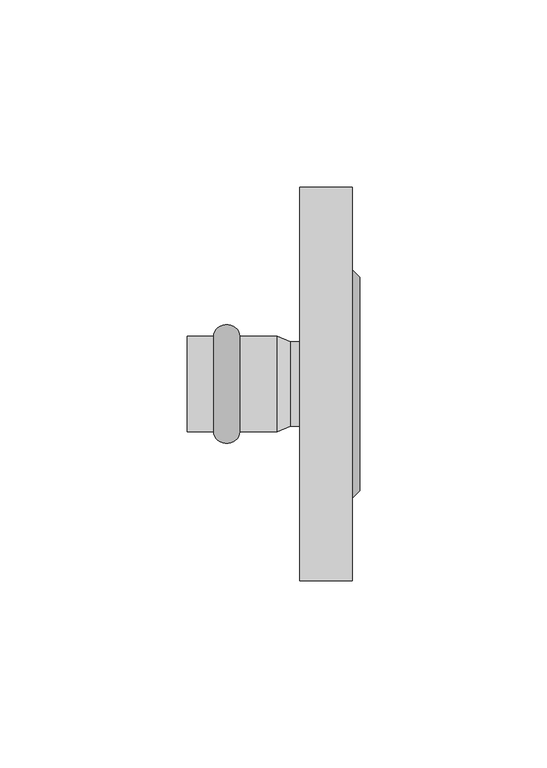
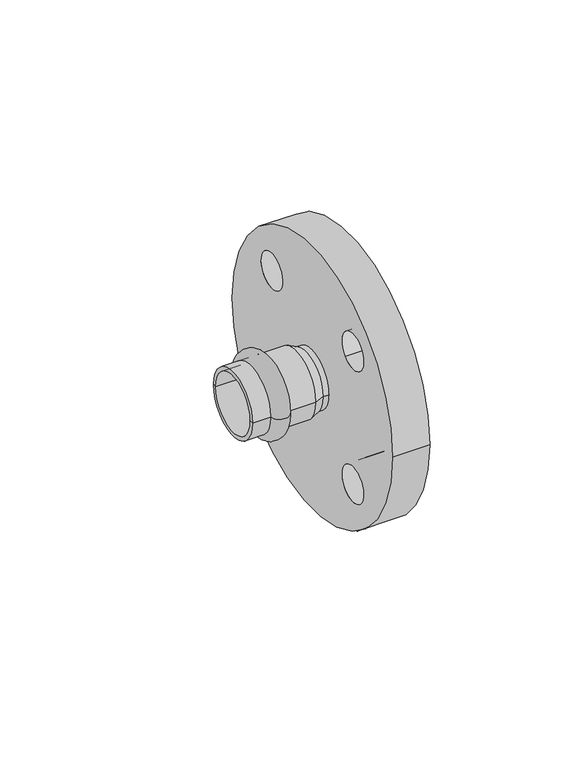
"""IFC4 building model written with IfcOpenShell, lengths in millimetres: pipe fitting geometry, РЕХАУ_Пресс Фланец : 22 x DN20."""

from ifc_helpers import new_model, si_unit, point, frame, frame_2d, origin, origin_2d, place, context, project, spatial, polyline, circle_curve, ellipse_curve, trimmed, segment, composite_curve, outline, extrude, source, transform, mapped, element, save
from ifc_brep_helpers import plane_surface, cylinder_surface, revolved_surface, advanced_brep


def pipe_fitting_acd5b14f(model_context):
    return source(origin(), model_context, "Body", "SolidModel", [
        advanced_brep(
        [(-17.0, 12.75, 0.0), (-17.0, -12.75, 0.0), (-10.0, -12.75, 0.0), (-10.0, 12.75, 0.0)],
        [
            (0, 1, circle_curve(frame((-17.0, 0.0, 0.0), z_axis=(-1.0, 0.0, 0.0), x_axis=(0.0, -1.0, 0.0)), 12.75)),
            (1, 2),
            (2, 3, circle_curve(frame((-10.0, 0.0, 0.0), z_axis=(1.0, 0.0, 0.0), x_axis=(0.0, -1.0, 0.0)), 12.75)),
            (3, 0),
            (1, 0, circle_curve(frame((-17.0, 0.0, 0.0), z_axis=(-1.0, 0.0, 0.0), x_axis=(0.0, -1.0, 0.0)), 12.75)),
            (3, 2, circle_curve(frame((-10.0, 0.0, 0.0), z_axis=(1.0, 0.0, 0.0), x_axis=(0.0, -1.0, 0.0)), 12.75)),
            (2, 1, ellipse_curve(frame((-13.5, -12.75, 0.0), z_axis=(0.0, 0.0, -1.0), x_axis=(-1.0, 0.0, 0.0)), 3.5, 3.1)),
            (0, 3, ellipse_curve(frame((-13.5, 12.75, 0.0), z_axis=(0.0, 0.0, -1.0), x_axis=(-1.0, 0.0, 0.0)), 3.5, 3.1)),
        ],
        [
            revolved_surface(polyline([(-10.0, -12.75, 0.0), (-17.0, -12.75, 0.0)]), (3.0, 0.0, 0.0), (1.0, 0.0, 0.0)),
            revolved_surface(trimmed(ellipse_curve(frame((-13.5, -12.75, 0.0), z_axis=(0.0, 0.0, 1.0), x_axis=(-1.0, 0.0, 0.0)), 3.5, 3.1), [point((-17.0, -12.75, 0.0))], [point((-10.0, -12.75, 0.0))], True, "CARTESIAN"), (3.0, 0.0, 0.0), (1.0, 0.0, 0.0)),
        ],
        [
            (0, [[1, 2, 3, 4]]),
            (0, [[5, -4, 6, -2]]),
            (1, [[-3, 7, -1, 8]]),
            (1, [[-6, -8, -5, -7]]),
        ],
    ),
        advanced_brep(
        [(3.5337785, 11.25, 0.0), (3.5337785, -11.25, 0.0), (0.0, -12.75, 0.0), (0.0, 12.75, 0.0), (-24.0, 11.25, 0.0), (-24.0, -11.25, 0.0), (-24.0, 12.75, 0.0), (-24.0, -12.75, 0.0)],
        [
            (0, 1, circle_curve(frame((3.5337785, 0.0, 0.0), z_axis=(-1.0, 0.0, 0.0), x_axis=(0.0, -1.0, 0.0)), 11.25)),
            (1, 2),
            (2, 3, circle_curve(frame((0.0, 0.0, 0.0), z_axis=(1.0, 0.0, 0.0), x_axis=(0.0, -1.0, 0.0)), 12.75)),
            (3, 0),
            (1, 0, circle_curve(frame((3.5337785, 0.0, 0.0), z_axis=(-1.0, 0.0, 0.0), x_axis=(0.0, -1.0, 0.0)), 11.25)),
            (3, 2, circle_curve(frame((0.0, 0.0, 0.0), z_axis=(1.0, 0.0, 0.0), x_axis=(0.0, -1.0, 0.0)), 12.75)),
            (4, 5, circle_curve(frame((-24.0, 0.0, 0.0), z_axis=(-1.0, 0.0, 0.0), x_axis=(0.0, -1.0, 0.0)), 11.25)),
            (5, 1),
            (0, 4),
            (5, 4, circle_curve(frame((-24.0, 0.0, 0.0), z_axis=(-1.0, 0.0, 0.0), x_axis=(0.0, -1.0, 0.0)), 11.25)),
            (6, 7, circle_curve(frame((-24.0, 0.0, 0.0), z_axis=(-1.0, 0.0, 0.0), x_axis=(0.0, -1.0, 0.0)), 12.75)),
            (7, 5),
            (4, 6),
            (7, 6, circle_curve(frame((-24.0, 0.0, 0.0), z_axis=(-1.0, 0.0, 0.0), x_axis=(0.0, -1.0, 0.0)), 12.75)),
            (2, 7),
            (6, 3),
        ],
        [
            revolved_surface(polyline([(0.0, -12.75, 0.0), (3.5337785, -11.25, 0.0)]), (3.0, 0.0, 0.0), (1.0, 0.0, 0.0)),
            revolved_surface(polyline([(3.5337785, -11.25, 0.0), (-24.0, -11.25, 0.0)]), (3.0, 0.0, 0.0), (1.0, 0.0, 0.0)),
            plane_surface(frame((-24.0, 0.0, 0.0), z_axis=(-1.0, 0.0, 0.0), x_axis=(0.0, -1.0, 0.0))),
            cylinder_surface(frame((3.0, 0.0, 0.0), z_axis=(1.0, 0.0, 0.0), x_axis=(0.0, -1.0, 0.0)), 12.75),
        ],
        [
            (0, [[1, 2, 3, 4]]),
            (0, [[5, -4, 6, -2]]),
            (1, [[7, 8, -1, 9]]),
            (1, [[10, -9, -5, -8]]),
            (2, [[11, 12, -7, 13]]),
            (2, [[14, -13, -10, -12]]),
            (3, [[-3, 15, -11, 16]]),
            (3, [[-6, -16, -14, -15]]),
        ],
    ),
        advanced_brep(
        [(22.0, -28.5, 0.0), (22.0, 28.5, 0.0), (20.0, -30.5, 0.0), (20.0, 30.5, 0.0)],
        [
            (0, 1, circle_curve(frame((22.0, 0.0, 0.0), z_axis=(1.0, 0.0, 0.0), x_axis=(0.0, -1.0, 0.0)), 28.5)),
            (1, 0, circle_curve(frame((22.0, 0.0, 0.0), z_axis=(1.0, 0.0, 0.0), x_axis=(0.0, 1.0, 0.0)), 28.5)),
            (2, 3, circle_curve(frame((20.0, 0.0, 0.0), z_axis=(-1.0, 0.0, 0.0), x_axis=(0.0, 1.0, 0.0)), 30.5)),
            (3, 2, circle_curve(frame((20.0, 0.0, 0.0), z_axis=(-1.0, 0.0, 0.0), x_axis=(0.0, -1.0, 0.0)), 30.5)),
            (3, 1),
            (0, 2),
        ],
        [
            plane_surface(frame((22.0, 0.0, 0.0), z_axis=(1.0, 0.0, 0.0), x_axis=(0.0, 0.0, -1.0))),
            plane_surface(frame((20.0, 0.0, 0.0), z_axis=(-1.0, 0.0, 0.0), x_axis=(0.0, 0.0, -1.0))),
            revolved_surface(polyline([(22.0, -28.5, 0.0), (20.0, -30.5, 0.0)]), (50.5, 0.0, 0.0), (-1.0, 0.0, 0.0)),
            revolved_surface(polyline([(22.0, 28.5, 0.0), (20.0, 30.5, 0.0)]), (50.5, 0.0, 0.0), (-1.0, 0.0, 0.0)),
        ],
        [
            (0, [[1, 2]]),
            (1, [[3, 4]]),
            (2, [[-4, 5, -1, 6]]),
            (3, [[-3, -6, -2, -5]]),
        ],
    ),
        extrude(outline(composite_curve([segment(trimmed(circle_curve(origin_2d(), 52.5), [point((52.5, 0.0))], [point((-52.5, 0.0))], False, "CARTESIAN"), True, "CONTINUOUS"), segment(trimmed(circle_curve(origin_2d(), 52.5), [point((-52.5, 0.0))], [point((52.5, 0.0))], False, "CARTESIAN"), True, "CONTINUOUS")], self_intersect=False), holes=[composite_curve([segment(trimmed(circle_curve(frame_2d((26.5165043, 26.5165043)), 7.0), [point((21.5667568, 21.5667568))], [point((31.4662518, 31.4662518))], True, "CARTESIAN"), True, "CONTINUOUS"), segment(trimmed(circle_curve(frame_2d((26.5165043, 26.5165043)), 7.0), [point((31.4662518, 31.4662518))], [point((21.5667568, 21.5667568))], True, "CARTESIAN"), True, "CONTINUOUS")], self_intersect=False), composite_curve([segment(trimmed(circle_curve(frame_2d((26.5165043, -26.5165043)), 7.0), [point((21.5667568, -21.5667568))], [point((31.4662518, -31.4662518))], True, "CARTESIAN"), True, "CONTINUOUS"), segment(trimmed(circle_curve(frame_2d((26.5165043, -26.5165043)), 7.0), [point((31.4662518, -31.4662518))], [point((21.5667568, -21.5667568))], True, "CARTESIAN"), True, "CONTINUOUS")], self_intersect=False), composite_curve([segment(trimmed(circle_curve(frame_2d((-26.5165043, -26.5165043)), 7.0), [point((-21.5667568, -21.5667568))], [point((-31.4662518, -31.4662518))], True, "CARTESIAN"), True, "CONTINUOUS"), segment(trimmed(circle_curve(frame_2d((-26.5165043, -26.5165043)), 7.0), [point((-31.4662518, -31.4662518))], [point((-21.5667568, -21.5667568))], True, "CARTESIAN"), True, "CONTINUOUS")], self_intersect=False), composite_curve([segment(trimmed(circle_curve(frame_2d((-26.5165043, 26.5165043)), 7.0), [point((-21.5667568, 21.5667568))], [point((-31.4662518, 31.4662518))], True, "CARTESIAN"), True, "CONTINUOUS"), segment(trimmed(circle_curve(frame_2d((-26.5165043, 26.5165043)), 7.0), [point((-31.4662518, 31.4662518))], [point((-21.5667568, 21.5667568))], True, "CARTESIAN"), True, "CONTINUOUS")], self_intersect=False)]), frame((6.0, 0.0, 0.0), z_axis=(1.0, 0.0, 0.0), x_axis=(0.0, 1.0, 0.0)), (0.0, 0.0, 1.0), 14.0),
        extrude(outline(composite_curve([segment(trimmed(circle_curve(origin_2d(), 11.25), [point((-11.25, 0.0))], [point((11.25, 0.0))], False, "CARTESIAN"), True, "CONTINUOUS"), segment(trimmed(circle_curve(origin_2d(), 11.25), [point((11.25, 0.0))], [point((-11.25, 0.0))], False, "CARTESIAN"), True, "CONTINUOUS")], self_intersect=False)), frame((0.0, 0.0, 0.0), z_axis=(1.0, 0.0, 0.0), x_axis=(0.0, 1.0, 0.0)), (0.0, 0.0, 1.0), 6.0),
    ])


if __name__ == "__main__":
    model = new_model("IFC4")
    model_context = context("Model", 3, world=origin())
    ifc_project = project(units=[si_unit("LENGTHUNIT", "METRE", prefix="MILLI")], contexts=[model_context])
    site = spatial("IfcSite", under=ifc_project)
    building = spatial("IfcBuilding", under=site)
    placement = place(None, origin())
    pipe_fitting_shape = pipe_fitting_acd5b14f(model_context)
    element("IfcPipeFitting", 1, ObjectType="РЕХАУ_Пресс Фланец : 22 x DN20", at=placement, inside=building, context=model_context, shape_type="MappedRepresentation", body=[
        mapped(pipe_fitting_shape, transform((0.0, 0.0, 0.0), x_axis=(1.0, 0.0, 0.0), y_axis=(0.0, 1.0, 0.0), z_axis=(0.0, 0.0, 1.0))),
    ])
    save(model, "model.ifc")
